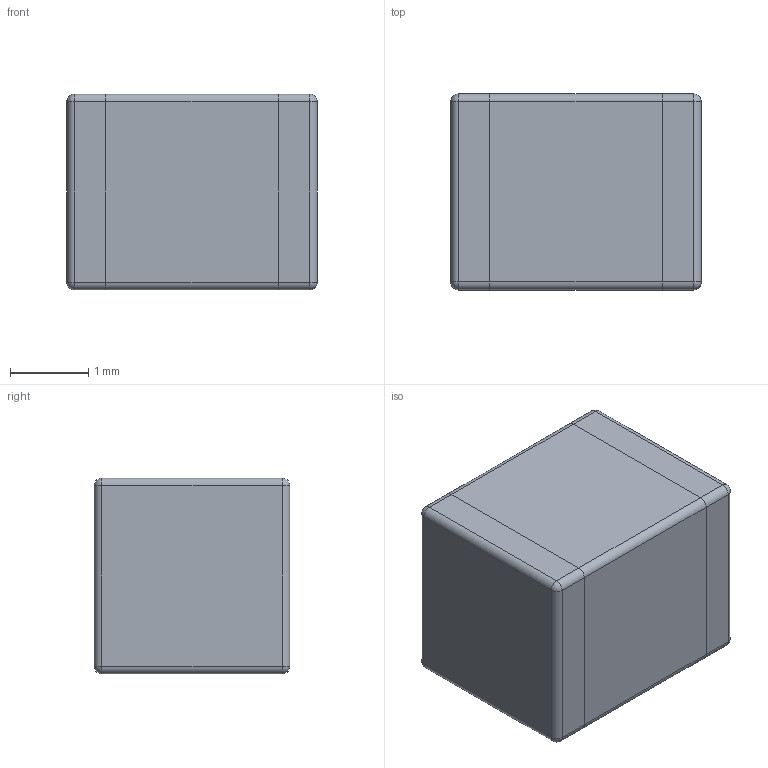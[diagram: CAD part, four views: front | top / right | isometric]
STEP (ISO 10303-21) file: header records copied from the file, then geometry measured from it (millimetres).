
FILE_DESCRIPTION(('FreeCAD Model'),'2;1');
FILE_NAME('Open CASCADE Shape Model','2022-02-08T11:17:59',(''),(''), 'Open CASCADE STEP processor 7.5','FreeCAD','Unknown');
FILE_SCHEMA(('AUTOMOTIVE_DESIGN { 1 0 10303 214 1 1 1 1 }'));
Length unit declared in the file: millimetre
Products named in the file (1): Fillet
Bounding box: 3.2 x 2.5 x 2.5 mm (x, y, z)
Volume: 19.9 mm3; surface area: 43.1 mm2
Topology: 1 solids, 1 shells, 42 faces, 88 edges, 40 vertices
Faces by surface type: cylinder 20, plane 14, sphere 8
Entity records: 2326 total; most frequent: CARTESIAN_POINT 371, DIRECTION 310, ORIENTED_EDGE 160, LINE 160, VECTOR 160, PCURVE 160, DEFINITIONAL_REPRESENTATION 160, EDGE_CURVE 80
